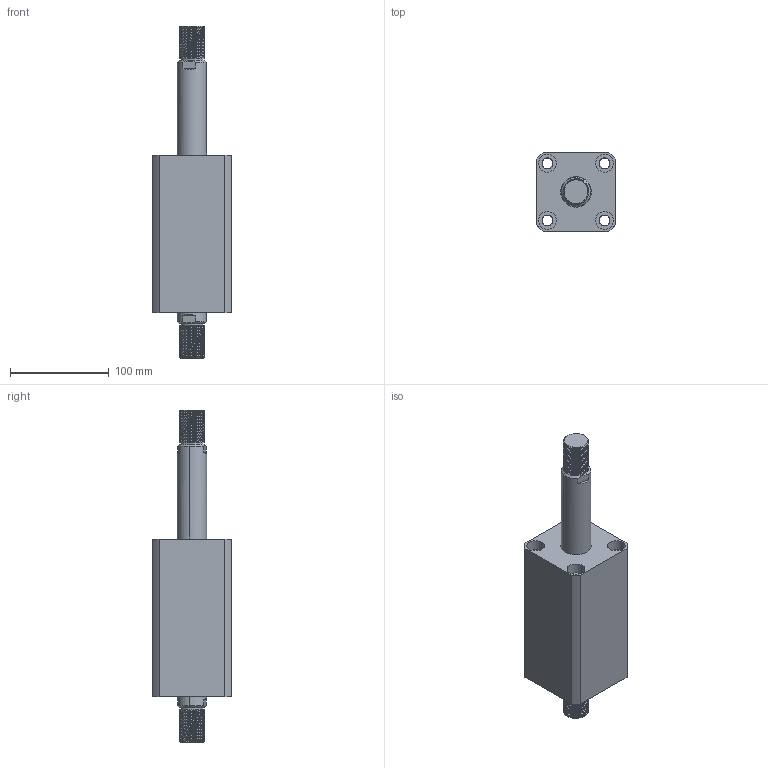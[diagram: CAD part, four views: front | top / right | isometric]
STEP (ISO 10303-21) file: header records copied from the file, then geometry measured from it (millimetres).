
FILE_DESCRIPTION (( 'STEP AP203' ), '1' );
FILE_NAME ('CHTB-SW50-85W.STEP', '2018-05-21T07:25:01', ( '' ), ( '' ), 'SwSTEP 2.0', 'SolidWorks 2015', '' );
FILE_SCHEMA (( 'CONFIG_CONTROL_DESIGN' ));
Length unit declared in the file: millimetre
Products named in the file (4): 活塞杆SW50-85W; CHTB-SW50-85W; ヶ裔; 掛极SW50-85W
Assembly tree (3 placements, depth 2):
  CHTB-SW50-85W
    掛极SW50-85W
    活塞杆SW50-85W
    ヶ裔
Bounding box: 80 x 80 x 337 mm (x, y, z)
Volume: 929770.6 mm3; surface area: 165104.6 mm2
Topology: 3 solids, 3 shells, 314 faces, 794 edges, 514 vertices
Faces by surface type: cylinder 202, plane 51, cone 29, torus 24, bspline 8
Entity records: 17377 total; most frequent: CARTESIAN_POINT 10049, ORIENTED_EDGE 1580, DIRECTION 1358, EDGE_CURVE 790, AXIS2_PLACEMENT_3D 549, VERTEX_POINT 514, EDGE_LOOP 362, ADVANCED_FACE 314
